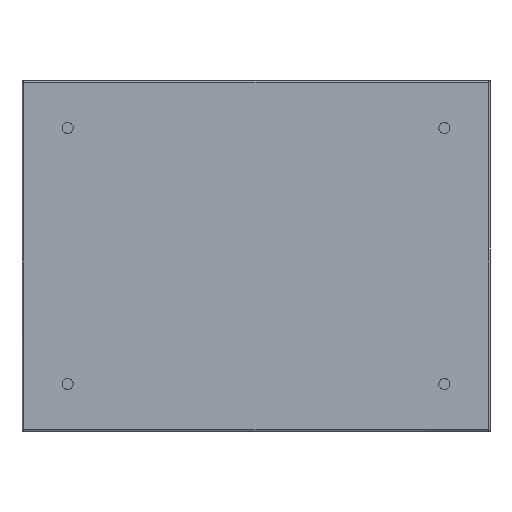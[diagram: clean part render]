
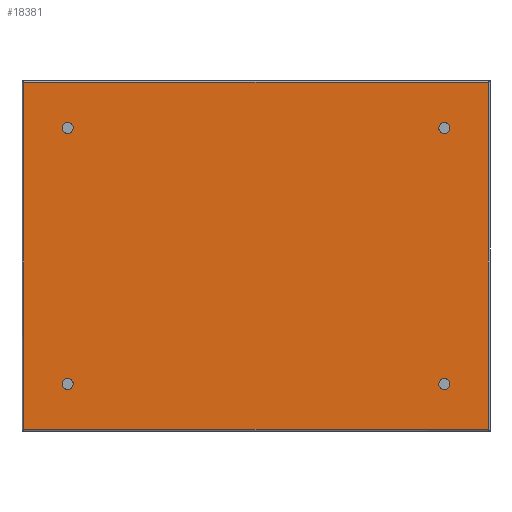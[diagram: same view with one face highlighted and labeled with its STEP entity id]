
A CAD part, top view. The second image highlights one B-rep face of the part: STEP entity #18381.
In plain terms, the highlighted planar face has unit normal (0, 0, 1).
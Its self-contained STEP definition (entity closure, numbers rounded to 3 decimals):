
#12491=CARTESIAN_POINT(' ',(591.7,442.7,0.));
#12492=VERTEX_POINT(' ',#12491);
#13311=CARTESIAN_POINT(' ',(591.7,2.3,0.));
#13312=VERTEX_POINT(' ',#13311);
#14286=CARTESIAN_POINT(' ',(591.7,442.7,0.));
#14291=DIRECTION(' ',(0.,-1.,0.));
#14296=VECTOR(' ',#14291,1.);
#14301=LINE('',#14286,#14296);
#14306=EDGE_CURVE(' ',#12492,#13312,#14301,.T.);
#16416=CARTESIAN_POINT(' ',(2.3,2.3,0.));
#16417=VERTEX_POINT(' ',#16416);
#17011=CARTESIAN_POINT(' ',(2.3,442.7,0.));
#17012=VERTEX_POINT(' ',#17011);
#18251=DIRECTION(' ',(-0.,-0.,1.));
#18256=CARTESIAN_POINT(' ',(591.7,2.3,0.));
#18261=DIRECTION(' ',(0.,1.,0.));
#18266=AXIS2_PLACEMENT_3D(' ',#18256,#18251,#18261);
#18271=PLANE('NONE',#18266);
#18276=CARTESIAN_POINT(' ',(2.3,2.3,0.));
#18281=DIRECTION(' ',(1.,0.,0.));
#18286=VECTOR(' ',#18281,1.);
#18291=LINE('',#18276,#18286);
#18296=EDGE_CURVE(' ',#16417,#13312,#18291,.T.);
#18301=ORIENTED_EDGE(' ',*,*,#18296,.T.);
#18306=ORIENTED_EDGE(' ',*,*,#14306,.F.);
#18311=CARTESIAN_POINT(' ',(591.7,442.7,0.));
#18316=DIRECTION(' ',(-1.,0.,0.));
#18321=VECTOR(' ',#18316,1.);
#18326=LINE('',#18311,#18321);
#18331=EDGE_CURVE(' ',#12492,#17012,#18326,.T.);
#18336=ORIENTED_EDGE(' ',*,*,#18331,.T.);
#18341=CARTESIAN_POINT(' ',(2.3,442.7,0.));
#18346=DIRECTION(' ',(0.,-1.,0.));
#18351=VECTOR(' ',#18346,1.);
#18356=LINE('',#18341,#18351);
#18361=EDGE_CURVE(' ',#17012,#16417,#18356,.T.);
#18366=ORIENTED_EDGE(' ',*,*,#18361,.T.);
#18371=EDGE_LOOP(' ',(#18301,#18306,#18336,#18366));
#18376=FACE_OUTER_BOUND(' ',#18371,.T.);
#18381=ADVANCED_FACE('NONE',(#18376),#18271,.T.);
